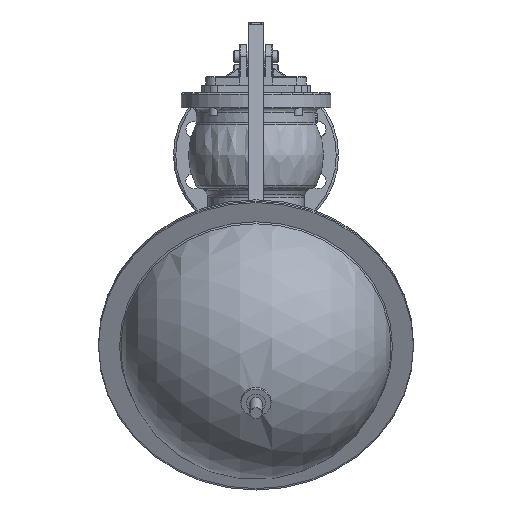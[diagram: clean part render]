
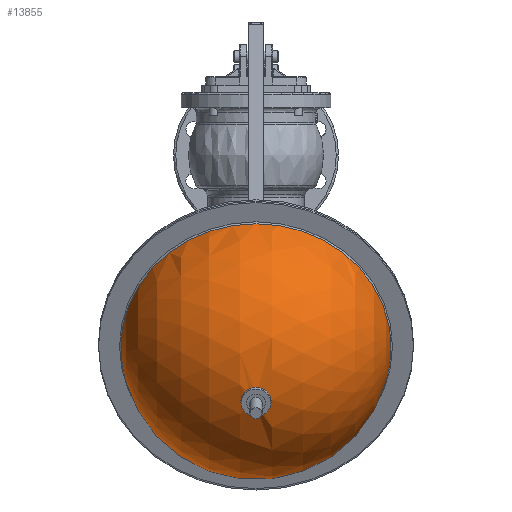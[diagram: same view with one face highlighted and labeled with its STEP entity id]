
A CAD part, top view. The second image highlights one B-rep face of the part: STEP entity #13855.
In plain terms, the highlighted spherical face has radius 180 mm.
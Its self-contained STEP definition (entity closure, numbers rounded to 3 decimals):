
#125 = EDGE_CURVE ( 'NONE', #12354, #12354, #14358, .T. ) ;
#131 = EDGE_CURVE ( 'NONE', #12358, #12358, #14376, .T. ) ;
#2212 = CARTESIAN_POINT ( 'NONE',  ( 0., -257.657, 1079.468 ) ) ;
#2213 = DIRECTION ( 'NONE',  ( 0., -0.411, 0.912 ) ) ;
#2214 = DIRECTION ( 'NONE',  ( 1., 0., 0. ) ) ;
#2228 = CARTESIAN_POINT ( 'NONE',  ( 0., -328.832, 1237.298 ) ) ;
#2229 = DIRECTION ( 'NONE',  ( 0., -0.411, 0.912 ) ) ;
#2230 = DIRECTION ( 'NONE',  ( 0., 0.912, 0.411 ) ) ;
#3175 = AXIS2_PLACEMENT_3D ( 'NONE', #8171, #8170, #8173 ) ;
#7105 = FACE_OUTER_BOUND ( 'NONE', #12689, .T. ) ;
#7110 = SPHERICAL_SURFACE ( 'NONE', #3175, 180. ) ;
#7114 = FACE_OUTER_BOUND ( 'NONE', #12690, .T. ) ;
#8170 = DIRECTION ( 'NONE',  ( 1., 0., 0. ) ) ;
#8171 = CARTESIAN_POINT ( 'NONE',  ( 0., -255.015, 1073.607 ) ) ;
#8173 = DIRECTION ( 'NONE',  ( 0., -0.912, -0.411 ) ) ;
#12221 = CARTESIAN_POINT ( 'NONE',  ( 179.885, -257.657, 1079.468 ) ) ;
#12225 = CARTESIAN_POINT ( 'NONE',  ( 0., -317.437, 1242.437 ) ) ;
#12354 = VERTEX_POINT ( 'NONE', #12221 ) ;
#12358 = VERTEX_POINT ( 'NONE', #12225 ) ;
#12689 = EDGE_LOOP ( 'NONE', ( #12944 ) ) ;
#12690 = EDGE_LOOP ( 'NONE', ( #12945 ) ) ;
#12944 = ORIENTED_EDGE ( 'NONE', *, *, #125, .T. ) ;
#12945 = ORIENTED_EDGE ( 'NONE', *, *, #131, .F. ) ;
#13737 = AXIS2_PLACEMENT_3D ( 'NONE', #2212, #2213, #2214 ) ;
#13742 = AXIS2_PLACEMENT_3D ( 'NONE', #2228, #2229, #2230 ) ;
#13855 = ADVANCED_FACE ( 'NONE', ( #7105, #7114 ), #7110, .T. ) ;
#14358 = CIRCLE ( 'NONE', #13737, 179.885 ) ;
#14376 = CIRCLE ( 'NONE', #13742, 12.5 ) ;
